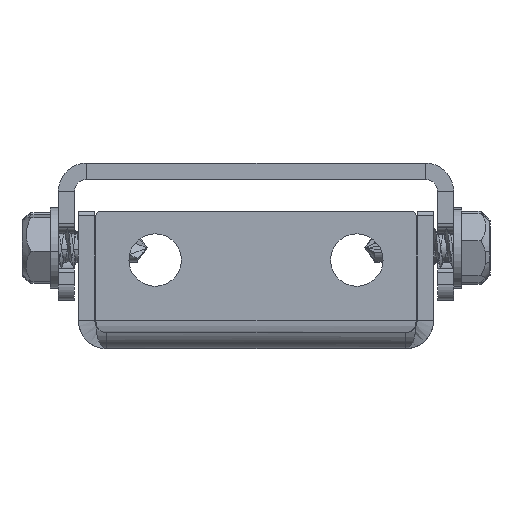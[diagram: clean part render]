
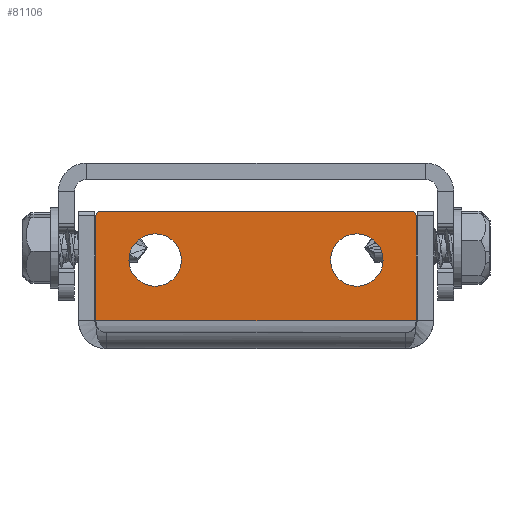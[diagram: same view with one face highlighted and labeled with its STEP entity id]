
A CAD part, left-side view. The second image highlights one B-rep face of the part: STEP entity #81106.
In plain terms, the highlighted planar face has unit normal (-1, 0, 0).
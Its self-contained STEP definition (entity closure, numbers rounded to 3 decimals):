
#527 = CARTESIAN_POINT ( 'NONE',  ( -26., 0., 0. ) ) ;
#1545 = VERTEX_POINT ( 'NONE', #48484 ) ;
#1824 = ORIENTED_EDGE ( 'NONE', *, *, #11504, .T. ) ;
#2793 = CARTESIAN_POINT ( 'NONE',  ( -26., -12.5, -7.75 ) ) ;
#2947 = DIRECTION ( 'NONE',  ( 1., 0., 0. ) ) ;
#3767 = VERTEX_POINT ( 'NONE', #81575 ) ;
#4499 = DIRECTION ( 'NONE',  ( 0., -1., 0. ) ) ;
#4529 = CARTESIAN_POINT ( 'NONE',  ( -26., 19.859, -3.5 ) ) ;
#8242 = DIRECTION ( 'NONE',  ( -1., 0., 0. ) ) ;
#9570 = AXIS2_PLACEMENT_3D ( 'NONE', #527, #79321, #75443 ) ;
#9585 = CIRCLE ( 'NONE', #63000, 3.25 ) ;
#11504 = EDGE_CURVE ( 'NONE', #17778, #18937, #62431, .T. ) ;
#11983 = VERTEX_POINT ( 'NONE', #22592 ) ;
#12095 = CARTESIAN_POINT ( 'NONE',  ( -26., -19.359, -17. ) ) ;
#13145 = EDGE_LOOP ( 'NONE', ( #86390, #76913, #20121, #47710, #18032, #44720 ) ) ;
#13926 = FACE_BOUND ( 'NONE', #16048, .T. ) ;
#15456 = AXIS2_PLACEMENT_3D ( 'NONE', #28746, #34973, #19687 ) ;
#16048 = EDGE_LOOP ( 'NONE', ( #55386, #36575 ) ) ;
#17192 = CARTESIAN_POINT ( 'NONE',  ( -26., 12.5, -7.75 ) ) ;
#17643 = DIRECTION ( 'NONE',  ( 1., 0., 0. ) ) ;
#17755 = CARTESIAN_POINT ( 'NONE',  ( -26., 19.359, -16.5 ) ) ;
#17778 = VERTEX_POINT ( 'NONE', #17192 ) ;
#18032 = ORIENTED_EDGE ( 'NONE', *, *, #86465, .T. ) ;
#18411 = EDGE_CURVE ( 'NONE', #31991, #44419, #40828, .T. ) ;
#18937 = VERTEX_POINT ( 'NONE', #22838 ) ;
#19687 = DIRECTION ( 'NONE',  ( 0., 0., -1. ) ) ;
#20121 = ORIENTED_EDGE ( 'NONE', *, *, #55750, .F. ) ;
#21027 = VERTEX_POINT ( 'NONE', #85207 ) ;
#22033 = PLANE ( 'NONE',  #9570 ) ;
#22592 = CARTESIAN_POINT ( 'NONE',  ( -26., -12.5, -14.25 ) ) ;
#22838 = CARTESIAN_POINT ( 'NONE',  ( -26., 12.5, -14.25 ) ) ;
#28527 = ORIENTED_EDGE ( 'NONE', *, *, #80799, .T. ) ;
#28746 = CARTESIAN_POINT ( 'NONE',  ( -26., -19.359, -16.5 ) ) ;
#28979 = DIRECTION ( 'NONE',  ( 0., 0., -1. ) ) ;
#31395 = EDGE_CURVE ( 'NONE', #89317, #1545, #35327, .T. ) ;
#31991 = VERTEX_POINT ( 'NONE', #4529 ) ;
#34973 = DIRECTION ( 'NONE',  ( -1., 0., 0. ) ) ;
#35327 = CIRCLE ( 'NONE', #15456, 0.5 ) ;
#36575 = ORIENTED_EDGE ( 'NONE', *, *, #65743, .T. ) ;
#36888 = CIRCLE ( 'NONE', #39937, 0.5 ) ;
#37403 = DIRECTION ( 'NONE',  ( 0., 0., -1. ) ) ;
#37532 = CARTESIAN_POINT ( 'NONE',  ( -26., 12.5, -11. ) ) ;
#39273 = CARTESIAN_POINT ( 'NONE',  ( -26., 12.5, -11. ) ) ;
#39616 = CARTESIAN_POINT ( 'NONE',  ( -26., -12.5, -11. ) ) ;
#39937 = AXIS2_PLACEMENT_3D ( 'NONE', #17755, #8242, #37403 ) ;
#40828 = LINE ( 'NONE', #76625, #41771 ) ;
#41399 = VECTOR ( 'NONE', #28979, 1000. ) ;
#41771 = VECTOR ( 'NONE', #4499, 1000. ) ;
#43013 = VECTOR ( 'NONE', #94151, 1000. ) ;
#43219 = AXIS2_PLACEMENT_3D ( 'NONE', #39273, #2947, #52207 ) ;
#43409 = DIRECTION ( 'NONE',  ( 0., -1., 0. ) ) ;
#43534 = FACE_OUTER_BOUND ( 'NONE', #13145, .T. ) ;
#44159 = EDGE_CURVE ( 'NONE', #3767, #89317, #58215, .T. ) ;
#44419 = VERTEX_POINT ( 'NONE', #47031 ) ;
#44720 = ORIENTED_EDGE ( 'NONE', *, *, #79610, .T. ) ;
#44724 = CARTESIAN_POINT ( 'NONE',  ( -26., -19.859, -3.5 ) ) ;
#47031 = CARTESIAN_POINT ( 'NONE',  ( -26., -19.859, -3.5 ) ) ;
#47710 = ORIENTED_EDGE ( 'NONE', *, *, #18411, .F. ) ;
#48484 = CARTESIAN_POINT ( 'NONE',  ( -26., -19.859, -16.5 ) ) ;
#52207 = DIRECTION ( 'NONE',  ( 0., 0., -1. ) ) ;
#53479 = DIRECTION ( 'NONE',  ( 0., 0., -1. ) ) ;
#55386 = ORIENTED_EDGE ( 'NONE', *, *, #85544, .T. ) ;
#55750 = EDGE_CURVE ( 'NONE', #44419, #1545, #64812, .T. ) ;
#56311 = AXIS2_PLACEMENT_3D ( 'NONE', #37532, #81424, #59478 ) ;
#58215 = LINE ( 'NONE', #65362, #77169 ) ;
#58362 = CIRCLE ( 'NONE', #78091, 3.25 ) ;
#59478 = DIRECTION ( 'NONE',  ( 0., 0., -1. ) ) ;
#62431 = CIRCLE ( 'NONE', #56311, 3.25 ) ;
#63000 = AXIS2_PLACEMENT_3D ( 'NONE', #39616, #17643, #53479 ) ;
#64115 = CARTESIAN_POINT ( 'NONE',  ( -26., 19.859, -3.5 ) ) ;
#64812 = LINE ( 'NONE', #44724, #41399 ) ;
#65054 = CARTESIAN_POINT ( 'NONE',  ( -26., -12.5, -11. ) ) ;
#65362 = CARTESIAN_POINT ( 'NONE',  ( -26., 0., -17. ) ) ;
#65743 = EDGE_CURVE ( 'NONE', #84600, #11983, #9585, .T. ) ;
#71259 = LINE ( 'NONE', #64115, #43013 ) ;
#75146 = CIRCLE ( 'NONE', #43219, 3.25 ) ;
#75443 = DIRECTION ( 'NONE',  ( 0., 0., -1. ) ) ;
#76625 = CARTESIAN_POINT ( 'NONE',  ( -26., -18.5, -3.5 ) ) ;
#76913 = ORIENTED_EDGE ( 'NONE', *, *, #31395, .T. ) ;
#77169 = VECTOR ( 'NONE', #43409, 1000. ) ;
#78057 = EDGE_LOOP ( 'NONE', ( #28527, #1824 ) ) ;
#78091 = AXIS2_PLACEMENT_3D ( 'NONE', #65054, #86987, #87220 ) ;
#79321 = DIRECTION ( 'NONE',  ( 1., 0., 0. ) ) ;
#79610 = EDGE_CURVE ( 'NONE', #21027, #3767, #36888, .T. ) ;
#80799 = EDGE_CURVE ( 'NONE', #18937, #17778, #75146, .T. ) ;
#81106 = ADVANCED_FACE ( 'NONE', ( #13926, #87438, #43534 ), #22033, .F. ) ;
#81424 = DIRECTION ( 'NONE',  ( 1., 0., 0. ) ) ;
#81575 = CARTESIAN_POINT ( 'NONE',  ( -26., 19.359, -17. ) ) ;
#84600 = VERTEX_POINT ( 'NONE', #2793 ) ;
#85207 = CARTESIAN_POINT ( 'NONE',  ( -26., 19.859, -16.5 ) ) ;
#85544 = EDGE_CURVE ( 'NONE', #11983, #84600, #58362, .T. ) ;
#86390 = ORIENTED_EDGE ( 'NONE', *, *, #44159, .T. ) ;
#86465 = EDGE_CURVE ( 'NONE', #31991, #21027, #71259, .T. ) ;
#86987 = DIRECTION ( 'NONE',  ( 1., 0., 0. ) ) ;
#87220 = DIRECTION ( 'NONE',  ( 0., 0., -1. ) ) ;
#87438 = FACE_BOUND ( 'NONE', #78057, .T. ) ;
#89317 = VERTEX_POINT ( 'NONE', #12095 ) ;
#94151 = DIRECTION ( 'NONE',  ( 0., 0., -1. ) ) ;
